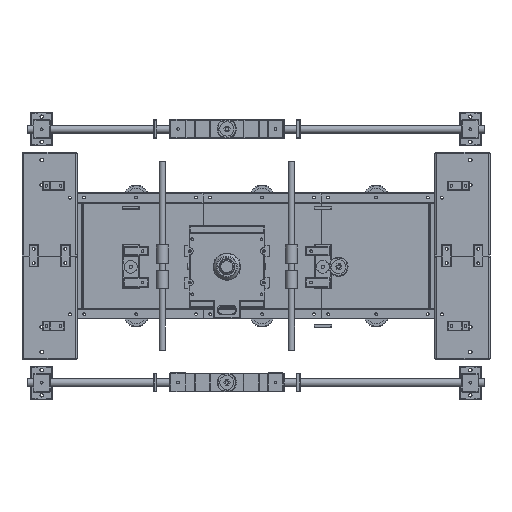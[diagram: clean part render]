
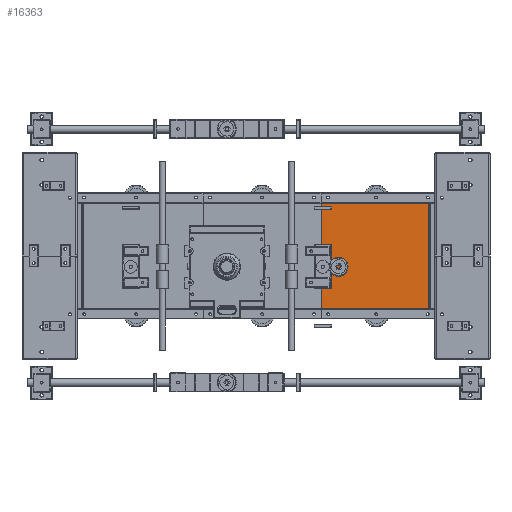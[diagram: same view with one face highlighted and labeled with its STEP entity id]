
A CAD part, top view. The second image highlights one B-rep face of the part: STEP entity #16363.
In plain terms, the highlighted planar face has unit normal (0, 0, 1).
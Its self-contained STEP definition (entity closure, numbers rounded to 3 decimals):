
#15890 = VERTEX_POINT('',#15891);
#15891 = CARTESIAN_POINT('',(300.,133.094,26.));
#15897 = EDGE_CURVE('',#15898,#15890,#15900,.T.);
#15898 = VERTEX_POINT('',#15899);
#15899 = CARTESIAN_POINT('',(300.,-1.,26.));
#15900 = LINE('',#15901,#15902);
#15901 = CARTESIAN_POINT('',(300.,-14.,26.));
#15902 = VECTOR('',#15903,1.);
#15903 = DIRECTION('',(0.,1.,0.));
#16363 = ADVANCED_FACE('',(#16364),#16389,.T.);
#16364 = FACE_BOUND('',#16365,.T.);
#16365 = EDGE_LOOP('',(#16366,#16374,#16375,#16383));
#16366 = ORIENTED_EDGE('',*,*,#16367,.T.);
#16367 = EDGE_CURVE('',#16368,#15890,#16370,.T.);
#16368 = VERTEX_POINT('',#16369);
#16369 = CARTESIAN_POINT('',(436.651,133.094,26.));
#16370 = LINE('',#16371,#16372);
#16371 = CARTESIAN_POINT('',(436.651,133.094,26.));
#16372 = VECTOR('',#16373,1.);
#16373 = DIRECTION('',(-1.,0.,0.));
#16374 = ORIENTED_EDGE('',*,*,#15897,.F.);
#16375 = ORIENTED_EDGE('',*,*,#16376,.T.);
#16376 = EDGE_CURVE('',#15898,#16377,#16379,.T.);
#16377 = VERTEX_POINT('',#16378);
#16378 = CARTESIAN_POINT('',(436.651,-1.,26.));
#16379 = LINE('',#16380,#16381);
#16380 = CARTESIAN_POINT('',(300.,-1.,26.));
#16381 = VECTOR('',#16382,1.);
#16382 = DIRECTION('',(1.,0.,0.));
#16383 = ORIENTED_EDGE('',*,*,#16384,.T.);
#16384 = EDGE_CURVE('',#16377,#16368,#16385,.T.);
#16385 = LINE('',#16386,#16387);
#16386 = CARTESIAN_POINT('',(436.651,-2.,26.));
#16387 = VECTOR('',#16388,1.);
#16388 = DIRECTION('',(0.,1.,0.));
#16389 = PLANE('',#16390);
#16390 = AXIS2_PLACEMENT_3D('',#16391,#16392,#16393);
#16391 = CARTESIAN_POINT('',(300.,-14.,26.));
#16392 = DIRECTION('',(0.,0.,1.));
#16393 = DIRECTION('',(1.,0.,0.));
